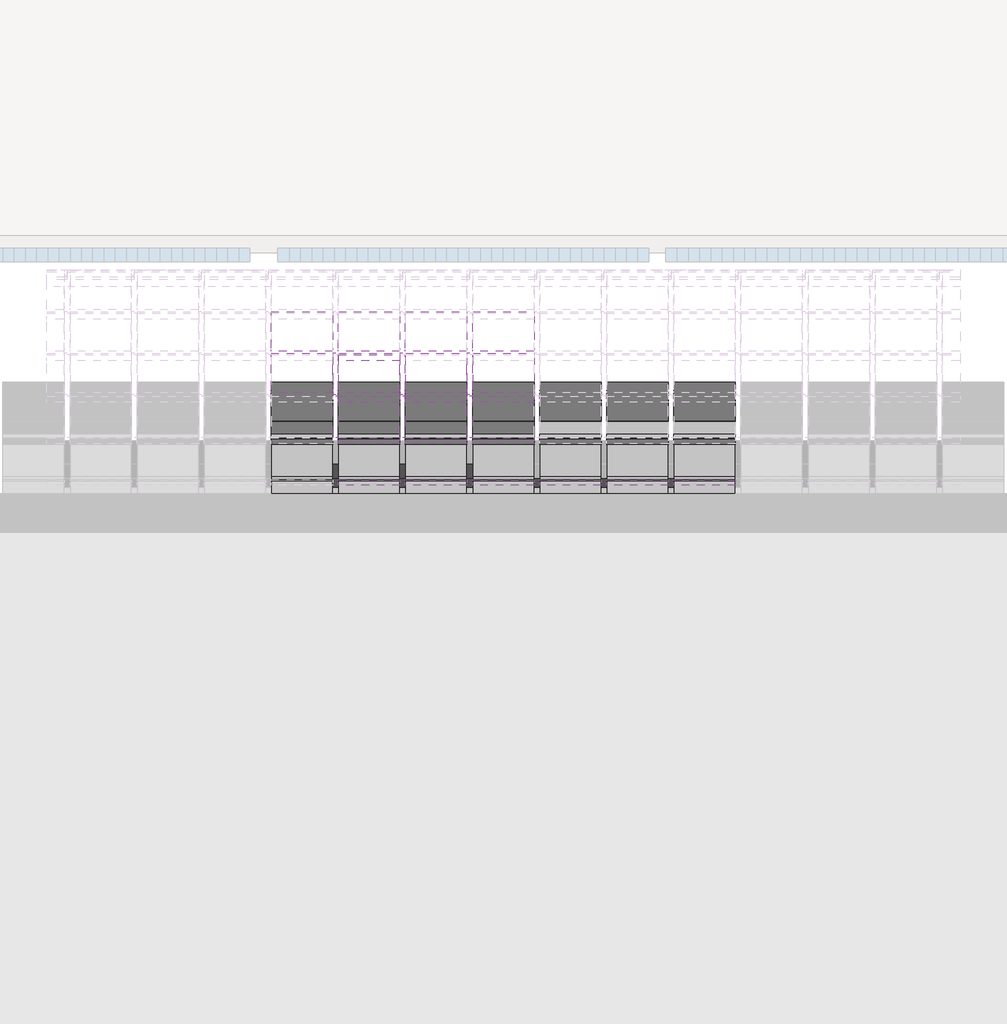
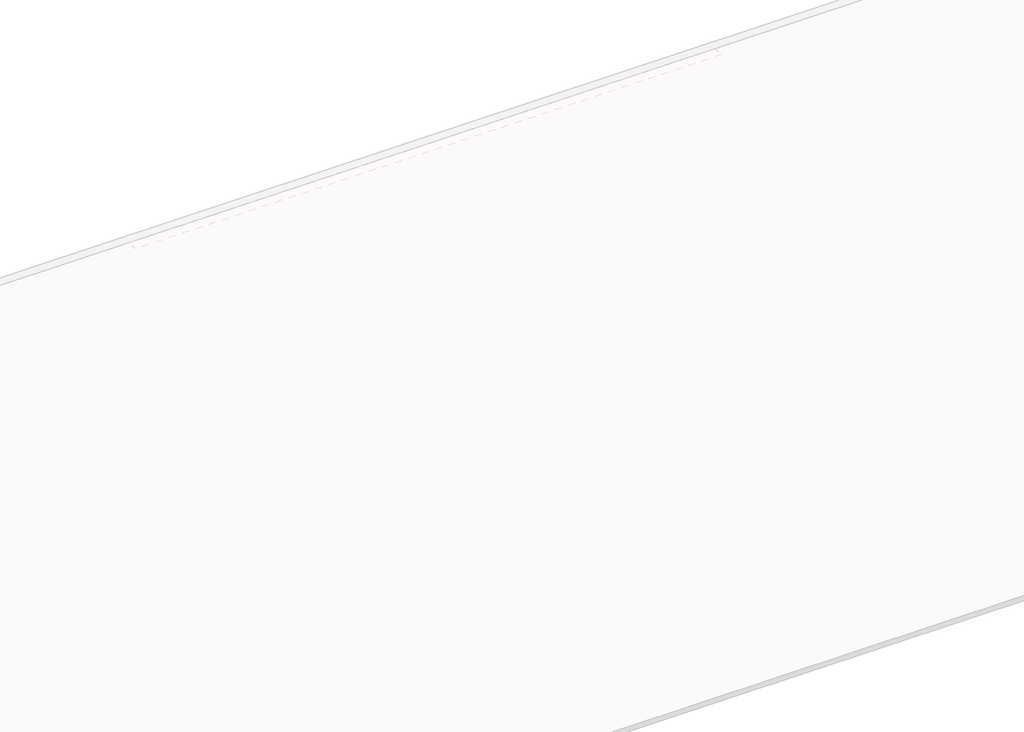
# One storey, part 38 of 57: 82 members, 42 plates.
"""IFC4 building model written with IfcOpenShell, lengths in millimetres."""

from ifc_helpers import new_model, si_unit, origin, place, context, project, spatial, transform, mapped, element, save
from components import rectangular_mullion_59984080, rectangular_mullion_2d2423ea, rectangular_mullion_caibro_e4384bba, rectangular_mullion_caibro_9bd7bc61, empty_system_panel_vazio_178faf58, empty_system_panel_vazio_2c78850d

model = new_model("IFC4")

# Units and contexts
model_context = context("Model", 3, world=origin())
ifc_project = project(units=[si_unit("LENGTHUNIT", "METRE", prefix="MILLI")], contexts=[model_context])

# Site, building, storey
site = spatial("IfcSite", under=ifc_project)
building = spatial("IfcBuilding", under=site)
storey = spatial("IfcBuildingStorey", under=building, Name="Nível 2", Elevation=4100.0)

# Members
placement = place(None, origin())
rectangular_mullion_shape = rectangular_mullion_59984080(model_context)
element("IfcMember", 1, ObjectType="Rectangular Mullion : Ripa", at=placement, inside=storey, context=model_context, shape_type="MappedRepresentation", body=[
    mapped(rectangular_mullion_shape, transform((25061.8161527, 12234.5331147, 4820.409113), x_axis=(0.0, 0.9578262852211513, 0.2873478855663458), y_axis=(0.0, 0.2873478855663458, -0.9578262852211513), z_axis=(-1.0, 0.0, 0.0))),
])
element("IfcMember", 2, ObjectType="Rectangular Mullion : Ripa", at=placement, inside=storey, context=model_context, shape_type="MappedRepresentation", body=[
    mapped(rectangular_mullion_shape, transform((25658.8709092, 12234.5331147, 4820.409113), x_axis=(0.0, 0.9578262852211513, 0.2873478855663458), y_axis=(0.0, 0.2873478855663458, -0.9578262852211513), z_axis=(-1.0, 0.0, 0.0))),
])
element("IfcMember", 3, ObjectType="Rectangular Mullion : Ripa", at=placement, inside=storey, context=model_context, shape_type="MappedRepresentation", body=[
    mapped(rectangular_mullion_shape, transform((26255.9256656, 12234.5331147, 4820.409113), x_axis=(0.0, 0.9578262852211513, 0.2873478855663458), y_axis=(0.0, 0.2873478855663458, -0.9578262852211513), z_axis=(-1.0, 0.0, 0.0))),
])
element("IfcMember", 4, ObjectType="Rectangular Mullion : Ripa", at=placement, inside=storey, context=model_context, shape_type="MappedRepresentation", body=[
    mapped(rectangular_mullion_shape, transform((26852.980422, 12234.5331147, 4820.409113), x_axis=(0.0, 0.9578262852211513, 0.2873478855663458), y_axis=(0.0, 0.2873478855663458, -0.9578262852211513), z_axis=(-1.0, 0.0, 0.0))),
])
element("IfcMember", 5, ObjectType="Rectangular Mullion : Ripa", at=placement, inside=storey, context=model_context, shape_type="MappedRepresentation", body=[
    mapped(rectangular_mullion_shape, transform((27450.0351784, 12234.5331147, 4820.409113), x_axis=(0.0, 0.9578262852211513, 0.2873478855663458), y_axis=(0.0, 0.2873478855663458, -0.9578262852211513), z_axis=(-1.0, 0.0, 0.0))),
])
element("IfcMember", 6, ObjectType="Rectangular Mullion : Ripa", at=placement, inside=storey, context=model_context, shape_type="MappedRepresentation", body=[
    mapped(rectangular_mullion_shape, transform((25061.8161527, 12604.7103734, 4931.4622906), x_axis=(0.0, 0.9578262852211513, 0.2873478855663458), y_axis=(0.0, 0.2873478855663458, -0.9578262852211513), z_axis=(-1.0, 0.0, 0.0))),
])
element("IfcMember", 7, ObjectType="Rectangular Mullion : Ripa", at=placement, inside=storey, context=model_context, shape_type="MappedRepresentation", body=[
    mapped(rectangular_mullion_shape, transform((25658.8709092, 12604.7103734, 4931.4622906), x_axis=(0.0, 0.9578262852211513, 0.2873478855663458), y_axis=(0.0, 0.2873478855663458, -0.9578262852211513), z_axis=(-1.0, 0.0, 0.0))),
])
element("IfcMember", 8, ObjectType="Rectangular Mullion : Ripa", at=placement, inside=storey, context=model_context, shape_type="MappedRepresentation", body=[
    mapped(rectangular_mullion_shape, transform((26255.9256656, 12604.7103734, 4931.4622906), x_axis=(0.0, 0.9578262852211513, 0.2873478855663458), y_axis=(0.0, 0.2873478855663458, -0.9578262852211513), z_axis=(-1.0, 0.0, 0.0))),
])
element("IfcMember", 9, ObjectType="Rectangular Mullion : Ripa", at=placement, inside=storey, context=model_context, shape_type="MappedRepresentation", body=[
    mapped(rectangular_mullion_shape, transform((26852.980422, 12604.7103734, 4931.4622906), x_axis=(0.0, 0.9578262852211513, 0.2873478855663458), y_axis=(0.0, 0.2873478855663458, -0.9578262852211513), z_axis=(-1.0, 0.0, 0.0))),
])
element("IfcMember", 10, ObjectType="Rectangular Mullion : Ripa", at=placement, inside=storey, context=model_context, shape_type="MappedRepresentation", body=[
    mapped(rectangular_mullion_shape, transform((27450.0351784, 12604.7103734, 4931.4622906), x_axis=(0.0, 0.9578262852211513, 0.2873478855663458), y_axis=(0.0, 0.2873478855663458, -0.9578262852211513), z_axis=(-1.0, 0.0, 0.0))),
])
element("IfcMember", 11, ObjectType="Rectangular Mullion : Ripa", at=placement, inside=storey, context=model_context, shape_type="MappedRepresentation", body=[
    mapped(rectangular_mullion_shape, transform((25061.8161527, 12974.8876321, 5042.5154682), x_axis=(0.0, 0.9578262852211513, 0.2873478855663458), y_axis=(0.0, 0.2873478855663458, -0.9578262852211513), z_axis=(-1.0, 0.0, 0.0))),
])
element("IfcMember", 12, ObjectType="Rectangular Mullion : Ripa", at=placement, inside=storey, context=model_context, shape_type="MappedRepresentation", body=[
    mapped(rectangular_mullion_shape, transform((25658.8709092, 12974.8876321, 5042.5154682), x_axis=(0.0, 0.9578262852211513, 0.2873478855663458), y_axis=(0.0, 0.2873478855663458, -0.9578262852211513), z_axis=(-1.0, 0.0, 0.0))),
])
element("IfcMember", 13, ObjectType="Rectangular Mullion : Ripa", at=placement, inside=storey, context=model_context, shape_type="MappedRepresentation", body=[
    mapped(rectangular_mullion_shape, transform((26255.9256656, 12974.8876321, 5042.5154682), x_axis=(0.0, 0.9578262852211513, 0.2873478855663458), y_axis=(0.0, 0.2873478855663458, -0.9578262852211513), z_axis=(-1.0, 0.0, 0.0))),
])
element("IfcMember", 14, ObjectType="Rectangular Mullion : Ripa", at=placement, inside=storey, context=model_context, shape_type="MappedRepresentation", body=[
    mapped(rectangular_mullion_shape, transform((26852.980422, 12974.8876321, 5042.5154682), x_axis=(0.0, 0.9578262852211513, 0.2873478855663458), y_axis=(0.0, 0.2873478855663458, -0.9578262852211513), z_axis=(-1.0, 0.0, 0.0))),
])
element("IfcMember", 15, ObjectType="Rectangular Mullion : Ripa", at=placement, inside=storey, context=model_context, shape_type="MappedRepresentation", body=[
    mapped(rectangular_mullion_shape, transform((27450.0351784, 12974.8876321, 5042.5154682), x_axis=(0.0, 0.9578262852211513, 0.2873478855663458), y_axis=(0.0, 0.2873478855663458, -0.9578262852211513), z_axis=(-1.0, 0.0, 0.0))),
])
element("IfcMember", 16, ObjectType="Rectangular Mullion : Ripa", at=placement, inside=storey, context=model_context, shape_type="MappedRepresentation", body=[
    mapped(rectangular_mullion_shape, transform((24464.7613963, 13345.0648907, 5153.5686458), x_axis=(0.0, 0.9578262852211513, 0.2873478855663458), y_axis=(0.0, 0.2873478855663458, -0.9578262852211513), z_axis=(-1.0, 0.0, 0.0))),
])
element("IfcMember", 17, ObjectType="Rectangular Mullion : Ripa", at=placement, inside=storey, context=model_context, shape_type="MappedRepresentation", body=[
    mapped(rectangular_mullion_shape, transform((25061.8161527, 13345.0648907, 5153.5686458), x_axis=(0.0, 0.9578262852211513, 0.2873478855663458), y_axis=(0.0, 0.2873478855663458, -0.9578262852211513), z_axis=(-1.0, 0.0, 0.0))),
])
element("IfcMember", 18, ObjectType="Rectangular Mullion : Ripa", at=placement, inside=storey, context=model_context, shape_type="MappedRepresentation", body=[
    mapped(rectangular_mullion_shape, transform((25658.8709092, 13345.0648907, 5153.5686458), x_axis=(0.0, 0.9578262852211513, 0.2873478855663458), y_axis=(0.0, 0.2873478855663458, -0.9578262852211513), z_axis=(-1.0, 0.0, 0.0))),
])
element("IfcMember", 19, ObjectType="Rectangular Mullion : Ripa", at=placement, inside=storey, context=model_context, shape_type="MappedRepresentation", body=[
    mapped(rectangular_mullion_shape, transform((26255.9256656, 13345.0648907, 5153.5686458), x_axis=(0.0, 0.9578262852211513, 0.2873478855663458), y_axis=(0.0, 0.2873478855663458, -0.9578262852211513), z_axis=(-1.0, 0.0, 0.0))),
])
element("IfcMember", 20, ObjectType="Rectangular Mullion : Ripa", at=placement, inside=storey, context=model_context, shape_type="MappedRepresentation", body=[
    mapped(rectangular_mullion_shape, transform((26852.980422, 13345.0648907, 5153.5686458), x_axis=(0.0, 0.9578262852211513, 0.2873478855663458), y_axis=(0.0, 0.2873478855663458, -0.9578262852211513), z_axis=(-1.0, 0.0, 0.0))),
])
element("IfcMember", 21, ObjectType="Rectangular Mullion : Ripa", at=placement, inside=storey, context=model_context, shape_type="MappedRepresentation", body=[
    mapped(rectangular_mullion_shape, transform((27450.0351784, 13345.0648907, 5153.5686458), x_axis=(0.0, 0.9578262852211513, 0.2873478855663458), y_axis=(0.0, 0.2873478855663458, -0.9578262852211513), z_axis=(-1.0, 0.0, 0.0))),
])
element("IfcMember", 22, ObjectType="Rectangular Mullion : Ripa", at=placement, inside=storey, context=model_context, shape_type="MappedRepresentation", body=[
    mapped(rectangular_mullion_shape, transform((24464.7613963, 13715.2421494, 5264.6218234), x_axis=(0.0, 0.9578262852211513, 0.2873478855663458), y_axis=(0.0, 0.2873478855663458, -0.9578262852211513), z_axis=(-1.0, 0.0, 0.0))),
])
element("IfcMember", 23, ObjectType="Rectangular Mullion : Ripa", at=placement, inside=storey, context=model_context, shape_type="MappedRepresentation", body=[
    mapped(rectangular_mullion_shape, transform((25061.8161527, 13715.2421494, 5264.6218234), x_axis=(0.0, 0.9578262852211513, 0.2873478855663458), y_axis=(0.0, 0.2873478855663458, -0.9578262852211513), z_axis=(-1.0, 0.0, 0.0))),
])
element("IfcMember", 24, ObjectType="Rectangular Mullion : Ripa", at=placement, inside=storey, context=model_context, shape_type="MappedRepresentation", body=[
    mapped(rectangular_mullion_shape, transform((25658.8709092, 13715.2421494, 5264.6218234), x_axis=(0.0, 0.9578262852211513, 0.2873478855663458), y_axis=(0.0, 0.2873478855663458, -0.9578262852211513), z_axis=(-1.0, 0.0, 0.0))),
])
element("IfcMember", 25, ObjectType="Rectangular Mullion : Ripa", at=placement, inside=storey, context=model_context, shape_type="MappedRepresentation", body=[
    mapped(rectangular_mullion_shape, transform((26255.9256656, 13715.2421494, 5264.6218234), x_axis=(0.0, 0.9578262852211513, 0.2873478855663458), y_axis=(0.0, 0.2873478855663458, -0.9578262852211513), z_axis=(-1.0, 0.0, 0.0))),
])
element("IfcMember", 26, ObjectType="Rectangular Mullion : Ripa", at=placement, inside=storey, context=model_context, shape_type="MappedRepresentation", body=[
    mapped(rectangular_mullion_shape, transform((26852.980422, 13715.2421494, 5264.6218234), x_axis=(0.0, 0.9578262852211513, 0.2873478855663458), y_axis=(0.0, 0.2873478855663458, -0.9578262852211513), z_axis=(-1.0, 0.0, 0.0))),
])
element("IfcMember", 27, ObjectType="Rectangular Mullion : Ripa", at=placement, inside=storey, context=model_context, shape_type="MappedRepresentation", body=[
    mapped(rectangular_mullion_shape, transform((27450.0351784, 13715.2421494, 5264.6218234), x_axis=(0.0, 0.9578262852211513, 0.2873478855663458), y_axis=(0.0, 0.2873478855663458, -0.9578262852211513), z_axis=(-1.0, 0.0, 0.0))),
])
element("IfcMember", 28, ObjectType="Rectangular Mullion : Ripa", at=placement, inside=storey, context=model_context, shape_type="MappedRepresentation", body=[
    mapped(rectangular_mullion_shape, transform((24464.7613963, 14085.4194081, 5375.675001), x_axis=(0.0, 0.9578262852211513, 0.2873478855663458), y_axis=(0.0, 0.2873478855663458, -0.9578262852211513), z_axis=(-1.0, 0.0, 0.0))),
])
element("IfcMember", 29, ObjectType="Rectangular Mullion : Ripa", at=placement, inside=storey, context=model_context, shape_type="MappedRepresentation", body=[
    mapped(rectangular_mullion_shape, transform((25061.8161527, 14085.4194081, 5375.675001), x_axis=(0.0, 0.9578262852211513, 0.2873478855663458), y_axis=(0.0, 0.2873478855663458, -0.9578262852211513), z_axis=(-1.0, 0.0, 0.0))),
])
element("IfcMember", 30, ObjectType="Rectangular Mullion : Ripa", at=placement, inside=storey, context=model_context, shape_type="MappedRepresentation", body=[
    mapped(rectangular_mullion_shape, transform((25658.8709092, 14085.4194081, 5375.675001), x_axis=(0.0, 0.9578262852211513, 0.2873478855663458), y_axis=(0.0, 0.2873478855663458, -0.9578262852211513), z_axis=(-1.0, 0.0, 0.0))),
])
element("IfcMember", 31, ObjectType="Rectangular Mullion : Ripa", at=placement, inside=storey, context=model_context, shape_type="MappedRepresentation", body=[
    mapped(rectangular_mullion_shape, transform((24464.7613963, 14455.5966667, 5486.7281786), x_axis=(0.0, 0.9578262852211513, 0.2873478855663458), y_axis=(0.0, 0.2873478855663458, -0.9578262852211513), z_axis=(-1.0, 0.0, 0.0))),
])
element("IfcMember", 32, ObjectType="Rectangular Mullion : Ripa", at=placement, inside=storey, context=model_context, shape_type="MappedRepresentation", body=[
    mapped(rectangular_mullion_shape, transform((25061.8161527, 14455.5966667, 5486.7281786), x_axis=(0.0, 0.9578262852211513, 0.2873478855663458), y_axis=(0.0, 0.2873478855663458, -0.9578262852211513), z_axis=(-1.0, 0.0, 0.0))),
])
element("IfcMember", 33, ObjectType="Rectangular Mullion : Ripa", at=placement, inside=storey, context=model_context, shape_type="MappedRepresentation", body=[
    mapped(rectangular_mullion_shape, transform((25658.8709092, 14455.5966667, 5486.7281786), x_axis=(0.0, 0.9578262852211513, 0.2873478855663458), y_axis=(0.0, 0.2873478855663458, -0.9578262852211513), z_axis=(-1.0, 0.0, 0.0))),
])
element("IfcMember", 34, ObjectType="Rectangular Mullion : Ripa", at=placement, inside=storey, context=model_context, shape_type="MappedRepresentation", body=[
    mapped(rectangular_mullion_shape, transform((24464.7613963, 14825.7739254, 5597.7813562), x_axis=(0.0, 0.9578262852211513, 0.2873478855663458), y_axis=(0.0, 0.2873478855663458, -0.9578262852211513), z_axis=(-1.0, 0.0, 0.0))),
])
rectangular_mullion_2_shape = rectangular_mullion_2d2423ea(model_context)
element("IfcMember", 35, ObjectType="Rectangular Mullion : Terça", at=placement, inside=storey, context=model_context, shape_type="MappedRepresentation", body=[
    mapped(rectangular_mullion_2_shape, transform((24464.7613963, 13411.2689826, 5110.7880343), x_axis=(0.0, 0.9578262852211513, 0.2873478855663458), y_axis=(0.0, 0.2873478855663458, -0.9578262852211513), z_axis=(-1.0, 0.0, 0.0))),
])
element("IfcMember", 36, ObjectType="Rectangular Mullion : Terça", at=placement, inside=storey, context=model_context, shape_type="MappedRepresentation", body=[
    mapped(rectangular_mullion_2_shape, transform((25061.8161527, 13411.2689826, 5110.7880343), x_axis=(0.0, 0.9578262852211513, 0.2873478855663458), y_axis=(0.0, 0.2873478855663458, -0.9578262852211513), z_axis=(-1.0, 0.0, 0.0))),
])
element("IfcMember", 37, ObjectType="Rectangular Mullion : Terça", at=placement, inside=storey, context=model_context, shape_type="MappedRepresentation", body=[
    mapped(rectangular_mullion_2_shape, transform((25658.8709092, 13411.2689826, 5110.7880343), x_axis=(0.0, 0.9578262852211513, 0.2873478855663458), y_axis=(0.0, 0.2873478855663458, -0.9578262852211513), z_axis=(-1.0, 0.0, 0.0))),
])
element("IfcMember", 38, ObjectType="Rectangular Mullion : Terça", at=placement, inside=storey, context=model_context, shape_type="MappedRepresentation", body=[
    mapped(rectangular_mullion_2_shape, transform((26255.9256656, 13411.2689826, 5110.7880343), x_axis=(0.0, 0.9578262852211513, 0.2873478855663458), y_axis=(0.0, 0.2873478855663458, -0.9578262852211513), z_axis=(-1.0, 0.0, 0.0))),
])
element("IfcMember", 39, ObjectType="Rectangular Mullion : Terça", at=placement, inside=storey, context=model_context, shape_type="MappedRepresentation", body=[
    mapped(rectangular_mullion_2_shape, transform((26852.980422, 13411.2689826, 5110.7880343), x_axis=(0.0, 0.9578262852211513, 0.2873478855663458), y_axis=(0.0, 0.2873478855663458, -0.9578262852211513), z_axis=(-1.0, 0.0, 0.0))),
])
element("IfcMember", 40, ObjectType="Rectangular Mullion : Terça", at=placement, inside=storey, context=model_context, shape_type="MappedRepresentation", body=[
    mapped(rectangular_mullion_2_shape, transform((27450.0351784, 13411.2689826, 5110.7880343), x_axis=(0.0, 0.9578262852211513, 0.2873478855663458), y_axis=(0.0, 0.2873478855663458, -0.9578262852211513), z_axis=(-1.0, 0.0, 0.0))),
])
rectangular_mullion_caibro_shape = rectangular_mullion_caibro_e4384bba(model_context)
element("IfcMember", 41, ObjectType="Rectangular Mullion : Caibro", at=placement, inside=storey, context=model_context, shape_type="MappedRepresentation", body=[
    mapped(rectangular_mullion_caibro_shape, transform((24439.7613963, 13345.0648907, 5153.5686458), x_axis=(1.0, 0.0, 0.0), y_axis=(0.0, 0.28734788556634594, -0.9578262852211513), z_axis=(0.0, 0.9578262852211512, 0.2873478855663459))),
])
element("IfcMember", 42, ObjectType="Rectangular Mullion : Caibro", at=placement, inside=storey, context=model_context, shape_type="MappedRepresentation", body=[
    mapped(rectangular_mullion_caibro_shape, transform((24439.7613963, 13715.2421494, 5264.6218234), x_axis=(1.0, 0.0, 0.0), y_axis=(0.0, 0.2873478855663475, -0.9578262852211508), z_axis=(0.0, 0.9578262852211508, 0.2873478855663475))),
])
element("IfcMember", 43, ObjectType="Rectangular Mullion : Caibro", at=placement, inside=storey, context=model_context, shape_type="MappedRepresentation", body=[
    mapped(rectangular_mullion_caibro_shape, transform((24439.7613963, 14085.4194081, 5375.675001), x_axis=(1.0, 0.0, 0.0), y_axis=(0.0, 0.2873478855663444, -0.9578262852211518), z_axis=(0.0, 0.9578262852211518, 0.2873478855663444))),
])
element("IfcMember", 44, ObjectType="Rectangular Mullion : Caibro", at=placement, inside=storey, context=model_context, shape_type="MappedRepresentation", body=[
    mapped(rectangular_mullion_caibro_shape, transform((24439.7613963, 14455.5966667, 5486.7281786), x_axis=(1.0, 0.0, 0.0), y_axis=(0.0, 0.28734788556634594, -0.9578262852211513), z_axis=(0.0, 0.9578262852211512, 0.2873478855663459))),
])
element("IfcMember", 45, ObjectType="Rectangular Mullion : Caibro", at=placement, inside=storey, context=model_context, shape_type="MappedRepresentation", body=[
    mapped(rectangular_mullion_caibro_shape, transform((24439.7613963, 14825.7739254, 5597.7813562), x_axis=(1.0, 0.0, 0.0), y_axis=(0.0, 0.28734788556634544, -0.9578262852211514), z_axis=(0.0, 0.9578262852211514, 0.28734788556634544))),
])
element("IfcMember", 46, ObjectType="Rectangular Mullion : Caibro", at=placement, inside=storey, context=model_context, shape_type="MappedRepresentation", body=[
    mapped(rectangular_mullion_caibro_shape, transform((25036.8161527, 12234.5331147, 4820.409113), x_axis=(1.0, 0.0, 0.0), y_axis=(0.0, 0.2873478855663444, -0.9578262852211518), z_axis=(0.0, 0.9578262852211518, 0.2873478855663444))),
])
element("IfcMember", 47, ObjectType="Rectangular Mullion : Caibro", at=placement, inside=storey, context=model_context, shape_type="MappedRepresentation", body=[
    mapped(rectangular_mullion_caibro_shape, transform((25036.8161527, 12604.7103734, 4931.4622906), x_axis=(1.0, 0.0, 0.0), y_axis=(0.0, 0.28734788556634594, -0.9578262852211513), z_axis=(0.0, 0.9578262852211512, 0.2873478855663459))),
])
element("IfcMember", 48, ObjectType="Rectangular Mullion : Caibro", at=placement, inside=storey, context=model_context, shape_type="MappedRepresentation", body=[
    mapped(rectangular_mullion_caibro_shape, transform((25036.8161527, 12974.8876321, 5042.5154682), x_axis=(1.0, 0.0, 0.0), y_axis=(0.0, 0.28734788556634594, -0.9578262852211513), z_axis=(0.0, 0.9578262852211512, 0.2873478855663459))),
])
element("IfcMember", 49, ObjectType="Rectangular Mullion : Caibro", at=placement, inside=storey, context=model_context, shape_type="MappedRepresentation", body=[
    mapped(rectangular_mullion_caibro_shape, transform((25036.8161527, 13345.0648907, 5153.5686458), x_axis=(1.0, 0.0, 0.0), y_axis=(0.0, 0.28734788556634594, -0.9578262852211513), z_axis=(0.0, 0.9578262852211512, 0.2873478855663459))),
])
element("IfcMember", 50, ObjectType="Rectangular Mullion : Caibro", at=placement, inside=storey, context=model_context, shape_type="MappedRepresentation", body=[
    mapped(rectangular_mullion_caibro_shape, transform((25036.8161527, 13715.2421494, 5264.6218234), x_axis=(1.0, 0.0, 0.0), y_axis=(0.0, 0.2873478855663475, -0.9578262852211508), z_axis=(0.0, 0.9578262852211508, 0.2873478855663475))),
])
element("IfcMember", 51, ObjectType="Rectangular Mullion : Caibro", at=placement, inside=storey, context=model_context, shape_type="MappedRepresentation", body=[
    mapped(rectangular_mullion_caibro_shape, transform((25036.8161527, 14085.4194081, 5375.675001), x_axis=(1.0, 0.0, 0.0), y_axis=(0.0, 0.2873478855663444, -0.9578262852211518), z_axis=(0.0, 0.9578262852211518, 0.2873478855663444))),
])
element("IfcMember", 52, ObjectType="Rectangular Mullion : Caibro", at=placement, inside=storey, context=model_context, shape_type="MappedRepresentation", body=[
    mapped(rectangular_mullion_caibro_shape, transform((25036.8161527, 14455.5966667, 5486.7281786), x_axis=(1.0, 0.0, 0.0), y_axis=(0.0, 0.28734788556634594, -0.9578262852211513), z_axis=(0.0, 0.9578262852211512, 0.2873478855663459))),
])
element("IfcMember", 53, ObjectType="Rectangular Mullion : Caibro", at=placement, inside=storey, context=model_context, shape_type="MappedRepresentation", body=[
    mapped(rectangular_mullion_caibro_shape, transform((25036.8161527, 14825.7739254, 5597.7813562), x_axis=(1.0, 0.0, 0.0), y_axis=(0.0, 0.28734788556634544, -0.9578262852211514), z_axis=(0.0, 0.9578262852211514, 0.28734788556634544))),
])
element("IfcMember", 54, ObjectType="Rectangular Mullion : Caibro", at=placement, inside=storey, context=model_context, shape_type="MappedRepresentation", body=[
    mapped(rectangular_mullion_caibro_shape, transform((25633.8709092, 12234.5331147, 4820.409113), x_axis=(1.0, 0.0, 0.0), y_axis=(0.0, 0.2873478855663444, -0.9578262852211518), z_axis=(0.0, 0.9578262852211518, 0.2873478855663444))),
])
element("IfcMember", 55, ObjectType="Rectangular Mullion : Caibro", at=placement, inside=storey, context=model_context, shape_type="MappedRepresentation", body=[
    mapped(rectangular_mullion_caibro_shape, transform((25633.8709092, 12604.7103734, 4931.4622906), x_axis=(1.0, 0.0, 0.0), y_axis=(0.0, 0.2873478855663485, -0.9578262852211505), z_axis=(0.0, 0.9578262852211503, 0.28734788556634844))),
])
element("IfcMember", 56, ObjectType="Rectangular Mullion : Caibro", at=placement, inside=storey, context=model_context, shape_type="MappedRepresentation", body=[
    mapped(rectangular_mullion_caibro_shape, transform((25633.8709092, 12974.8876321, 5042.5154682), x_axis=(1.0, 0.0, 0.0), y_axis=(0.0, 0.2873478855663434, -0.957826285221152), z_axis=(0.0, 0.957826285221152, 0.2873478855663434))),
])
element("IfcMember", 57, ObjectType="Rectangular Mullion : Caibro", at=placement, inside=storey, context=model_context, shape_type="MappedRepresentation", body=[
    mapped(rectangular_mullion_caibro_shape, transform((25633.8709092, 13345.0648907, 5153.5686458), x_axis=(1.0, 0.0, 0.0), y_axis=(0.0, 0.28734788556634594, -0.9578262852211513), z_axis=(0.0, 0.9578262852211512, 0.2873478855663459))),
])
element("IfcMember", 58, ObjectType="Rectangular Mullion : Caibro", at=placement, inside=storey, context=model_context, shape_type="MappedRepresentation", body=[
    mapped(rectangular_mullion_caibro_shape, transform((25633.8709092, 13715.2421494, 5264.6218234), x_axis=(1.0, 0.0, 0.0), y_axis=(0.0, 0.28734788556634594, -0.9578262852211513), z_axis=(0.0, 0.9578262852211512, 0.2873478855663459))),
])
element("IfcMember", 59, ObjectType="Rectangular Mullion : Caibro", at=placement, inside=storey, context=model_context, shape_type="MappedRepresentation", body=[
    mapped(rectangular_mullion_caibro_shape, transform((25633.8709092, 14085.4194081, 5375.675001), x_axis=(1.0, 0.0, 0.0), y_axis=(0.0, 0.28734788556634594, -0.9578262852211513), z_axis=(0.0, 0.9578262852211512, 0.2873478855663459))),
])
element("IfcMember", 60, ObjectType="Rectangular Mullion : Caibro", at=placement, inside=storey, context=model_context, shape_type="MappedRepresentation", body=[
    mapped(rectangular_mullion_caibro_shape, transform((25633.8709092, 14455.5966667, 5486.7281786), x_axis=(1.0, 0.0, 0.0), y_axis=(0.0, 0.2873478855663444, -0.9578262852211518), z_axis=(0.0, 0.9578262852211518, 0.2873478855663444))),
])
element("IfcMember", 61, ObjectType="Rectangular Mullion : Caibro", at=placement, inside=storey, context=model_context, shape_type="MappedRepresentation", body=[
    mapped(rectangular_mullion_caibro_shape, transform((25633.8709092, 14825.7739254, 5597.7813562), x_axis=(1.0, 0.0, 0.0), y_axis=(0.0, 0.287347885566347, -0.9578262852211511), z_axis=(0.0, 0.9578262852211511, 0.287347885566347))),
])
element("IfcMember", 62, ObjectType="Rectangular Mullion : Caibro", at=placement, inside=storey, context=model_context, shape_type="MappedRepresentation", body=[
    mapped(rectangular_mullion_caibro_shape, transform((26230.9256656, 12234.5331147, 4820.409113), x_axis=(1.0, 0.0, 0.0), y_axis=(0.0, 0.2873478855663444, -0.9578262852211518), z_axis=(0.0, 0.9578262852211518, 0.2873478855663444))),
])
element("IfcMember", 63, ObjectType="Rectangular Mullion : Caibro", at=placement, inside=storey, context=model_context, shape_type="MappedRepresentation", body=[
    mapped(rectangular_mullion_caibro_shape, transform((26230.9256656, 12604.7103734, 4931.4622906), x_axis=(1.0, 0.0, 0.0), y_axis=(0.0, 0.2873478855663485, -0.9578262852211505), z_axis=(0.0, 0.9578262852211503, 0.28734788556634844))),
])
element("IfcMember", 64, ObjectType="Rectangular Mullion : Caibro", at=placement, inside=storey, context=model_context, shape_type="MappedRepresentation", body=[
    mapped(rectangular_mullion_caibro_shape, transform((26230.9256656, 12974.8876321, 5042.5154682), x_axis=(1.0, 0.0, 0.0), y_axis=(0.0, 0.2873478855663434, -0.957826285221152), z_axis=(0.0, 0.957826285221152, 0.2873478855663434))),
])
element("IfcMember", 65, ObjectType="Rectangular Mullion : Caibro", at=placement, inside=storey, context=model_context, shape_type="MappedRepresentation", body=[
    mapped(rectangular_mullion_caibro_shape, transform((26230.9256656, 13345.0648907, 5153.5686458), x_axis=(1.0, 0.0, 0.0), y_axis=(0.0, 0.28734788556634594, -0.9578262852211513), z_axis=(0.0, 0.9578262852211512, 0.2873478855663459))),
])
element("IfcMember", 66, ObjectType="Rectangular Mullion : Caibro", at=placement, inside=storey, context=model_context, shape_type="MappedRepresentation", body=[
    mapped(rectangular_mullion_caibro_shape, transform((26230.9256656, 13715.2421494, 5264.6218234), x_axis=(1.0, 0.0, 0.0), y_axis=(0.0, 0.28734788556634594, -0.9578262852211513), z_axis=(0.0, 0.9578262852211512, 0.2873478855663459))),
])
element("IfcMember", 67, ObjectType="Rectangular Mullion : Caibro", at=placement, inside=storey, context=model_context, shape_type="MappedRepresentation", body=[
    mapped(rectangular_mullion_caibro_shape, transform((26827.980422, 12234.5331147, 4820.409113), x_axis=(1.0, 0.0, 0.0), y_axis=(0.0, 0.2873478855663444, -0.9578262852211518), z_axis=(0.0, 0.9578262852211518, 0.2873478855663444))),
])
element("IfcMember", 68, ObjectType="Rectangular Mullion : Caibro", at=placement, inside=storey, context=model_context, shape_type="MappedRepresentation", body=[
    mapped(rectangular_mullion_caibro_shape, transform((26827.980422, 12604.7103734, 4931.4622906), x_axis=(1.0, 0.0, 0.0), y_axis=(0.0, 0.2873478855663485, -0.9578262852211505), z_axis=(0.0, 0.9578262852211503, 0.28734788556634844))),
])
element("IfcMember", 69, ObjectType="Rectangular Mullion : Caibro", at=placement, inside=storey, context=model_context, shape_type="MappedRepresentation", body=[
    mapped(rectangular_mullion_caibro_shape, transform((26827.980422, 12974.8876321, 5042.5154682), x_axis=(1.0, 0.0, 0.0), y_axis=(0.0, 0.2873478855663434, -0.957826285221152), z_axis=(0.0, 0.957826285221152, 0.2873478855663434))),
])
element("IfcMember", 70, ObjectType="Rectangular Mullion : Caibro", at=placement, inside=storey, context=model_context, shape_type="MappedRepresentation", body=[
    mapped(rectangular_mullion_caibro_shape, transform((26827.980422, 13345.0648907, 5153.5686458), x_axis=(1.0, 0.0, 0.0), y_axis=(0.0, 0.28734788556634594, -0.9578262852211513), z_axis=(0.0, 0.9578262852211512, 0.2873478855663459))),
])
element("IfcMember", 71, ObjectType="Rectangular Mullion : Caibro", at=placement, inside=storey, context=model_context, shape_type="MappedRepresentation", body=[
    mapped(rectangular_mullion_caibro_shape, transform((26827.980422, 13715.2421494, 5264.6218234), x_axis=(1.0, 0.0, 0.0), y_axis=(0.0, 0.28734788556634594, -0.9578262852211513), z_axis=(0.0, 0.9578262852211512, 0.2873478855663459))),
])
element("IfcMember", 72, ObjectType="Rectangular Mullion : Caibro", at=placement, inside=storey, context=model_context, shape_type="MappedRepresentation", body=[
    mapped(rectangular_mullion_caibro_shape, transform((27425.0351784, 12234.5331147, 4820.409113), x_axis=(1.0, 0.0, 0.0), y_axis=(0.0, 0.2873478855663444, -0.9578262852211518), z_axis=(0.0, 0.9578262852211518, 0.2873478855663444))),
])
element("IfcMember", 73, ObjectType="Rectangular Mullion : Caibro", at=placement, inside=storey, context=model_context, shape_type="MappedRepresentation", body=[
    mapped(rectangular_mullion_caibro_shape, transform((27425.0351784, 12604.7103734, 4931.4622906), x_axis=(1.0, 0.0, 0.0), y_axis=(0.0, 0.28734788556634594, -0.9578262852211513), z_axis=(0.0, 0.9578262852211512, 0.2873478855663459))),
])
element("IfcMember", 74, ObjectType="Rectangular Mullion : Caibro", at=placement, inside=storey, context=model_context, shape_type="MappedRepresentation", body=[
    mapped(rectangular_mullion_caibro_shape, transform((27425.0351784, 12974.8876321, 5042.5154682), x_axis=(1.0, 0.0, 0.0), y_axis=(0.0, 0.28734788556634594, -0.9578262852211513), z_axis=(0.0, 0.9578262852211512, 0.2873478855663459))),
])
element("IfcMember", 75, ObjectType="Rectangular Mullion : Caibro", at=placement, inside=storey, context=model_context, shape_type="MappedRepresentation", body=[
    mapped(rectangular_mullion_caibro_shape, transform((27425.0351784, 13345.0648907, 5153.5686458), x_axis=(1.0, 0.0, 0.0), y_axis=(0.0, 0.28734788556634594, -0.9578262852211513), z_axis=(0.0, 0.9578262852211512, 0.2873478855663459))),
])
element("IfcMember", 76, ObjectType="Rectangular Mullion : Caibro", at=placement, inside=storey, context=model_context, shape_type="MappedRepresentation", body=[
    mapped(rectangular_mullion_caibro_shape, transform((27425.0351784, 13715.2421494, 5264.6218234), x_axis=(1.0, 0.0, 0.0), y_axis=(0.0, 0.2873478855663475, -0.9578262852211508), z_axis=(0.0, 0.9578262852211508, 0.2873478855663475))),
])
rectangular_mullion_caibro_2_shape = rectangular_mullion_caibro_9bd7bc61(model_context)
element("IfcMember", 77, ObjectType="Rectangular Mullion : Caibro", at=placement, inside=storey, context=model_context, shape_type="MappedRepresentation", body=[
    mapped(rectangular_mullion_caibro_2_shape, transform((24439.7613963, 13411.2689826, 5110.7880343), x_axis=(1.0, 0.0, 0.0), y_axis=(0.0, 0.2873478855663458, -0.9578262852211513), z_axis=(0.0, 0.9578262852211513, 0.2873478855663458))),
])
element("IfcMember", 78, ObjectType="Rectangular Mullion : Caibro", at=placement, inside=storey, context=model_context, shape_type="MappedRepresentation", body=[
    mapped(rectangular_mullion_caibro_2_shape, transform((25036.8161527, 13411.2689826, 5110.7880343), x_axis=(1.0, 0.0, 0.0), y_axis=(0.0, 0.2873478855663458, -0.9578262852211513), z_axis=(0.0, 0.9578262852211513, 0.2873478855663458))),
])
element("IfcMember", 79, ObjectType="Rectangular Mullion : Caibro", at=placement, inside=storey, context=model_context, shape_type="MappedRepresentation", body=[
    mapped(rectangular_mullion_caibro_2_shape, transform((25633.8709092, 13411.2689826, 5110.7880343), x_axis=(1.0, 0.0, 0.0), y_axis=(0.0, 0.2873478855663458, -0.9578262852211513), z_axis=(0.0, 0.9578262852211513, 0.2873478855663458))),
])
element("IfcMember", 80, ObjectType="Rectangular Mullion : Caibro", at=placement, inside=storey, context=model_context, shape_type="MappedRepresentation", body=[
    mapped(rectangular_mullion_caibro_2_shape, transform((26230.9256656, 13411.2689826, 5110.7880343), x_axis=(1.0, 0.0, 0.0), y_axis=(0.0, 0.2873478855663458, -0.9578262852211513), z_axis=(0.0, 0.9578262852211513, 0.2873478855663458))),
])
element("IfcMember", 81, ObjectType="Rectangular Mullion : Caibro", at=placement, inside=storey, context=model_context, shape_type="MappedRepresentation", body=[
    mapped(rectangular_mullion_caibro_2_shape, transform((26827.980422, 13411.2689826, 5110.7880343), x_axis=(1.0, 0.0, 0.0), y_axis=(0.0, 0.2873478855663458, -0.9578262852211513), z_axis=(0.0, 0.9578262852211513, 0.2873478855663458))),
])
element("IfcMember", 82, ObjectType="Rectangular Mullion : Caibro", at=placement, inside=storey, context=model_context, shape_type="MappedRepresentation", body=[
    mapped(rectangular_mullion_caibro_2_shape, transform((27425.0351784, 13411.2689826, 5110.7880343), x_axis=(1.0, 0.0, 0.0), y_axis=(0.0, 0.2873478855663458, -0.9578262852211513), z_axis=(0.0, 0.9578262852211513, 0.2873478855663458))),
])

# Plates
empty_system_panel_vazio_shape = empty_system_panel_vazio_178faf58(model_context)
element("IfcPlate", 83, ObjectType="Empty System Panel : Vazio", at=placement, inside=storey, context=model_context, shape_type="MappedRepresentation", body=[
    mapped(empty_system_panel_vazio_shape, transform((26529.4530438, 12234.5331147, 4820.409113), x_axis=(1.0, 0.0, 0.0), y_axis=(0.0, 0.2873478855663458, -0.9578262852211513), z_axis=(0.0, 0.9578262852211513, 0.2873478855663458))),
])
element("IfcPlate", 84, ObjectType="Empty System Panel : Vazio", at=placement, inside=storey, context=model_context, shape_type="MappedRepresentation", body=[
    mapped(empty_system_panel_vazio_shape, transform((27126.5078002, 12234.5331147, 4820.409113), x_axis=(1.0, 0.0, 0.0), y_axis=(0.0, 0.2873478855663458, -0.9578262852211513), z_axis=(0.0, 0.9578262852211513, 0.2873478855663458))),
])
element("IfcPlate", 85, ObjectType="Empty System Panel : Vazio", at=placement, inside=storey, context=model_context, shape_type="MappedRepresentation", body=[
    mapped(empty_system_panel_vazio_shape, transform((27723.5625566, 12234.5331147, 4820.409113), x_axis=(1.0, 0.0, 0.0), y_axis=(0.0, 0.2873478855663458, -0.9578262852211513), z_axis=(0.0, 0.9578262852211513, 0.2873478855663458))),
])
element("IfcPlate", 86, ObjectType="Empty System Panel : Vazio", at=placement, inside=storey, context=model_context, shape_type="MappedRepresentation", body=[
    mapped(empty_system_panel_vazio_shape, transform((26529.4530438, 12604.7103734, 4931.4622906), x_axis=(1.0, 0.0, 0.0), y_axis=(0.0, 0.2873478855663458, -0.9578262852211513), z_axis=(0.0, 0.9578262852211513, 0.2873478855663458))),
])
element("IfcPlate", 87, ObjectType="Empty System Panel : Vazio", at=placement, inside=storey, context=model_context, shape_type="MappedRepresentation", body=[
    mapped(empty_system_panel_vazio_shape, transform((27126.5078002, 12604.7103734, 4931.4622906), x_axis=(1.0, 0.0, 0.0), y_axis=(0.0, 0.2873478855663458, -0.9578262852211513), z_axis=(0.0, 0.9578262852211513, 0.2873478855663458))),
])
element("IfcPlate", 88, ObjectType="Empty System Panel : Vazio", at=placement, inside=storey, context=model_context, shape_type="MappedRepresentation", body=[
    mapped(empty_system_panel_vazio_shape, transform((27723.5625566, 12604.7103734, 4931.4622906), x_axis=(1.0, 0.0, 0.0), y_axis=(0.0, 0.2873478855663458, -0.9578262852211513), z_axis=(0.0, 0.9578262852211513, 0.2873478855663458))),
])
element("IfcPlate", 89, ObjectType="Empty System Panel : Vazio", at=placement, inside=storey, context=model_context, shape_type="MappedRepresentation", body=[
    mapped(empty_system_panel_vazio_shape, transform((26529.4530438, 12974.8876321, 5042.5154682), x_axis=(1.0, 0.0, 0.0), y_axis=(0.0, 0.2873478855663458, -0.9578262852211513), z_axis=(0.0, 0.9578262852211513, 0.2873478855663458))),
])
element("IfcPlate", 90, ObjectType="Empty System Panel : Vazio", at=placement, inside=storey, context=model_context, shape_type="MappedRepresentation", body=[
    mapped(empty_system_panel_vazio_shape, transform((27126.5078002, 12974.8876321, 5042.5154682), x_axis=(1.0, 0.0, 0.0), y_axis=(0.0, 0.2873478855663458, -0.9578262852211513), z_axis=(0.0, 0.9578262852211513, 0.2873478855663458))),
])
element("IfcPlate", 91, ObjectType="Empty System Panel : Vazio", at=placement, inside=storey, context=model_context, shape_type="MappedRepresentation", body=[
    mapped(empty_system_panel_vazio_shape, transform((27723.5625566, 12974.8876321, 5042.5154682), x_axis=(1.0, 0.0, 0.0), y_axis=(0.0, 0.2873478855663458, -0.9578262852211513), z_axis=(0.0, 0.9578262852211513, 0.2873478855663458))),
])
element("IfcPlate", 92, ObjectType="Empty System Panel : Vazio", at=placement, inside=storey, context=model_context, shape_type="MappedRepresentation", body=[
    mapped(empty_system_panel_vazio_shape, transform((24141.2340181, 13345.0648907, 5153.5686458), x_axis=(1.0, 0.0, 0.0), y_axis=(0.0, 0.2873478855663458, -0.9578262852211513), z_axis=(0.0, 0.9578262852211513, 0.2873478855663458))),
])
element("IfcPlate", 93, ObjectType="Empty System Panel : Vazio", at=placement, inside=storey, context=model_context, shape_type="MappedRepresentation", body=[
    mapped(empty_system_panel_vazio_shape, transform((24738.2887745, 13345.0648907, 5153.5686458), x_axis=(1.0, 0.0, 0.0), y_axis=(0.0, 0.2873478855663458, -0.9578262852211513), z_axis=(0.0, 0.9578262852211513, 0.2873478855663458))),
])
element("IfcPlate", 94, ObjectType="Empty System Panel : Vazio", at=placement, inside=storey, context=model_context, shape_type="MappedRepresentation", body=[
    mapped(empty_system_panel_vazio_shape, transform((25335.3435309, 13345.0648907, 5153.5686458), x_axis=(1.0, 0.0, 0.0), y_axis=(0.0, 0.2873478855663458, -0.9578262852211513), z_axis=(0.0, 0.9578262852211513, 0.2873478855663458))),
])
element("IfcPlate", 95, ObjectType="Empty System Panel : Vazio", at=placement, inside=storey, context=model_context, shape_type="MappedRepresentation", body=[
    mapped(empty_system_panel_vazio_shape, transform((25932.3982874, 13345.0648907, 5153.5686458), x_axis=(1.0, 0.0, 0.0), y_axis=(0.0, 0.2873478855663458, -0.9578262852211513), z_axis=(0.0, 0.9578262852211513, 0.2873478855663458))),
])
element("IfcPlate", 96, ObjectType="Empty System Panel : Vazio", at=placement, inside=storey, context=model_context, shape_type="MappedRepresentation", body=[
    mapped(empty_system_panel_vazio_shape, transform((26529.4530438, 13345.0648907, 5153.5686458), x_axis=(1.0, 0.0, 0.0), y_axis=(0.0, 0.2873478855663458, -0.9578262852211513), z_axis=(0.0, 0.9578262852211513, 0.2873478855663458))),
])
element("IfcPlate", 97, ObjectType="Empty System Panel : Vazio", at=placement, inside=storey, context=model_context, shape_type="MappedRepresentation", body=[
    mapped(empty_system_panel_vazio_shape, transform((27126.5078002, 13345.0648907, 5153.5686458), x_axis=(1.0, 0.0, 0.0), y_axis=(0.0, 0.2873478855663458, -0.9578262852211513), z_axis=(0.0, 0.9578262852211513, 0.2873478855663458))),
])
element("IfcPlate", 98, ObjectType="Empty System Panel : Vazio", at=placement, inside=storey, context=model_context, shape_type="MappedRepresentation", body=[
    mapped(empty_system_panel_vazio_shape, transform((27723.5625566, 13345.0648907, 5153.5686458), x_axis=(1.0, 0.0, 0.0), y_axis=(0.0, 0.2873478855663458, -0.9578262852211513), z_axis=(0.0, 0.9578262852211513, 0.2873478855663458))),
])
element("IfcPlate", 99, ObjectType="Empty System Panel : Vazio", at=placement, inside=storey, context=model_context, shape_type="MappedRepresentation", body=[
    mapped(empty_system_panel_vazio_shape, transform((24141.2340181, 13715.2421494, 5264.6218234), x_axis=(1.0, 0.0, 0.0), y_axis=(0.0, 0.2873478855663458, -0.9578262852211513), z_axis=(0.0, 0.9578262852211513, 0.2873478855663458))),
])
element("IfcPlate", 100, ObjectType="Empty System Panel : Vazio", at=placement, inside=storey, context=model_context, shape_type="MappedRepresentation", body=[
    mapped(empty_system_panel_vazio_shape, transform((24738.2887745, 13715.2421494, 5264.6218234), x_axis=(1.0, 0.0, 0.0), y_axis=(0.0, 0.2873478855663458, -0.9578262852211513), z_axis=(0.0, 0.9578262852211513, 0.2873478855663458))),
])
element("IfcPlate", 101, ObjectType="Empty System Panel : Vazio", at=placement, inside=storey, context=model_context, shape_type="MappedRepresentation", body=[
    mapped(empty_system_panel_vazio_shape, transform((25335.3435309, 13715.2421494, 5264.6218234), x_axis=(1.0, 0.0, 0.0), y_axis=(0.0, 0.2873478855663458, -0.9578262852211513), z_axis=(0.0, 0.9578262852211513, 0.2873478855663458))),
])
element("IfcPlate", 102, ObjectType="Empty System Panel : Vazio", at=placement, inside=storey, context=model_context, shape_type="MappedRepresentation", body=[
    mapped(empty_system_panel_vazio_shape, transform((25932.3982874, 13715.2421494, 5264.6218234), x_axis=(1.0, 0.0, 0.0), y_axis=(0.0, 0.2873478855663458, -0.9578262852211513), z_axis=(0.0, 0.9578262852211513, 0.2873478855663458))),
])
element("IfcPlate", 103, ObjectType="Empty System Panel : Vazio", at=placement, inside=storey, context=model_context, shape_type="MappedRepresentation", body=[
    mapped(empty_system_panel_vazio_shape, transform((26529.4530438, 13715.2421494, 5264.6218234), x_axis=(1.0, 0.0, 0.0), y_axis=(0.0, 0.2873478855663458, -0.9578262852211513), z_axis=(0.0, 0.9578262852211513, 0.2873478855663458))),
])
element("IfcPlate", 104, ObjectType="Empty System Panel : Vazio", at=placement, inside=storey, context=model_context, shape_type="MappedRepresentation", body=[
    mapped(empty_system_panel_vazio_shape, transform((27126.5078002, 13715.2421494, 5264.6218234), x_axis=(1.0, 0.0, 0.0), y_axis=(0.0, 0.2873478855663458, -0.9578262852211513), z_axis=(0.0, 0.9578262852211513, 0.2873478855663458))),
])
element("IfcPlate", 105, ObjectType="Empty System Panel : Vazio", at=placement, inside=storey, context=model_context, shape_type="MappedRepresentation", body=[
    mapped(empty_system_panel_vazio_shape, transform((27723.5625566, 13715.2421494, 5264.6218234), x_axis=(1.0, 0.0, 0.0), y_axis=(0.0, 0.2873478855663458, -0.9578262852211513), z_axis=(0.0, 0.9578262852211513, 0.2873478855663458))),
])
element("IfcPlate", 106, ObjectType="Empty System Panel : Vazio", at=placement, inside=storey, context=model_context, shape_type="MappedRepresentation", body=[
    mapped(empty_system_panel_vazio_shape, transform((24141.2340181, 14085.4194081, 5375.675001), x_axis=(1.0, 0.0, 0.0), y_axis=(0.0, 0.2873478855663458, -0.9578262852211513), z_axis=(0.0, 0.9578262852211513, 0.2873478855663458))),
])
element("IfcPlate", 107, ObjectType="Empty System Panel : Vazio", at=placement, inside=storey, context=model_context, shape_type="MappedRepresentation", body=[
    mapped(empty_system_panel_vazio_shape, transform((24738.2887745, 14085.4194081, 5375.675001), x_axis=(1.0, 0.0, 0.0), y_axis=(0.0, 0.2873478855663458, -0.9578262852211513), z_axis=(0.0, 0.9578262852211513, 0.2873478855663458))),
])
element("IfcPlate", 108, ObjectType="Empty System Panel : Vazio", at=placement, inside=storey, context=model_context, shape_type="MappedRepresentation", body=[
    mapped(empty_system_panel_vazio_shape, transform((25335.3435309, 14085.4194081, 5375.675001), x_axis=(1.0, 0.0, 0.0), y_axis=(0.0, 0.2873478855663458, -0.9578262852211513), z_axis=(0.0, 0.9578262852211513, 0.2873478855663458))),
])
element("IfcPlate", 109, ObjectType="Empty System Panel : Vazio", at=placement, inside=storey, context=model_context, shape_type="MappedRepresentation", body=[
    mapped(empty_system_panel_vazio_shape, transform((25932.3982874, 14085.4194081, 5375.675001), x_axis=(1.0, 0.0, 0.0), y_axis=(0.0, 0.2873478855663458, -0.9578262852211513), z_axis=(0.0, 0.9578262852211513, 0.2873478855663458))),
])
element("IfcPlate", 110, ObjectType="Empty System Panel : Vazio", at=placement, inside=storey, context=model_context, shape_type="MappedRepresentation", body=[
    mapped(empty_system_panel_vazio_shape, transform((24141.2340181, 14455.5966667, 5486.7281786), x_axis=(1.0, 0.0, 0.0), y_axis=(0.0, 0.2873478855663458, -0.9578262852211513), z_axis=(0.0, 0.9578262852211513, 0.2873478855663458))),
])
element("IfcPlate", 111, ObjectType="Empty System Panel : Vazio", at=placement, inside=storey, context=model_context, shape_type="MappedRepresentation", body=[
    mapped(empty_system_panel_vazio_shape, transform((24738.2887745, 14455.5966667, 5486.7281786), x_axis=(1.0, 0.0, 0.0), y_axis=(0.0, 0.2873478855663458, -0.9578262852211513), z_axis=(0.0, 0.9578262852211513, 0.2873478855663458))),
])
element("IfcPlate", 112, ObjectType="Empty System Panel : Vazio", at=placement, inside=storey, context=model_context, shape_type="MappedRepresentation", body=[
    mapped(empty_system_panel_vazio_shape, transform((25335.3435309, 14455.5966667, 5486.7281786), x_axis=(1.0, 0.0, 0.0), y_axis=(0.0, 0.2873478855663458, -0.9578262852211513), z_axis=(0.0, 0.9578262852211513, 0.2873478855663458))),
])
element("IfcPlate", 113, ObjectType="Empty System Panel : Vazio", at=placement, inside=storey, context=model_context, shape_type="MappedRepresentation", body=[
    mapped(empty_system_panel_vazio_shape, transform((25932.3982874, 14455.5966667, 5486.7281786), x_axis=(1.0, 0.0, 0.0), y_axis=(0.0, 0.2873478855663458, -0.9578262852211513), z_axis=(0.0, 0.9578262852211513, 0.2873478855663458))),
])
element("IfcPlate", 114, ObjectType="Empty System Panel : Vazio", at=placement, inside=storey, context=model_context, shape_type="MappedRepresentation", body=[
    mapped(empty_system_panel_vazio_shape, transform((24141.2340181, 14825.7739254, 5597.7813562), x_axis=(1.0, 0.0, 0.0), y_axis=(0.0, 0.2873478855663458, -0.9578262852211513), z_axis=(0.0, 0.9578262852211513, 0.2873478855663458))),
])
element("IfcPlate", 115, ObjectType="Empty System Panel : Vazio", at=placement, inside=storey, context=model_context, shape_type="MappedRepresentation", body=[
    mapped(empty_system_panel_vazio_shape, transform((24738.2887745, 14825.7739254, 5597.7813562), x_axis=(1.0, 0.0, 0.0), y_axis=(0.0, 0.2873478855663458, -0.9578262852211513), z_axis=(0.0, 0.9578262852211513, 0.2873478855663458))),
])
element("IfcPlate", 116, ObjectType="Empty System Panel : Vazio", at=placement, inside=storey, context=model_context, shape_type="MappedRepresentation", body=[
    mapped(empty_system_panel_vazio_shape, transform((25335.3435309, 14825.7739254, 5597.7813562), x_axis=(1.0, 0.0, 0.0), y_axis=(0.0, 0.2873478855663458, -0.9578262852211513), z_axis=(0.0, 0.9578262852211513, 0.2873478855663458))),
])
element("IfcPlate", 117, ObjectType="Empty System Panel : Vazio", at=placement, inside=storey, context=model_context, shape_type="MappedRepresentation", body=[
    mapped(empty_system_panel_vazio_shape, transform((25932.3982874, 14825.7739254, 5597.7813562), x_axis=(1.0, 0.0, 0.0), y_axis=(0.0, 0.2873478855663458, -0.9578262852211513), z_axis=(0.0, 0.9578262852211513, 0.2873478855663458))),
])
empty_system_panel_vazio_2_shape = empty_system_panel_vazio_2c78850d(model_context)
element("IfcPlate", 118, ObjectType="Empty System Panel : Vazio", at=placement, inside=storey, context=model_context, shape_type="MappedRepresentation", body=[
    mapped(empty_system_panel_vazio_2_shape, transform((24141.2340181, 13440.0037711, 5119.4084708), x_axis=(1.0, 0.0, 0.0), y_axis=(0.0, 0.2873478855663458, -0.9578262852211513), z_axis=(0.0, 0.9578262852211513, 0.2873478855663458))),
])
element("IfcPlate", 119, ObjectType="Empty System Panel : Vazio", at=placement, inside=storey, context=model_context, shape_type="MappedRepresentation", body=[
    mapped(empty_system_panel_vazio_2_shape, transform((24738.2887745, 13440.0037711, 5119.4084708), x_axis=(1.0, 0.0, 0.0), y_axis=(0.0, 0.2873478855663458, -0.9578262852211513), z_axis=(0.0, 0.9578262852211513, 0.2873478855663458))),
])
element("IfcPlate", 120, ObjectType="Empty System Panel : Vazio", at=placement, inside=storey, context=model_context, shape_type="MappedRepresentation", body=[
    mapped(empty_system_panel_vazio_2_shape, transform((25335.3435309, 13440.0037711, 5119.4084708), x_axis=(1.0, 0.0, 0.0), y_axis=(0.0, 0.2873478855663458, -0.9578262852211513), z_axis=(0.0, 0.9578262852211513, 0.2873478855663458))),
])
element("IfcPlate", 121, ObjectType="Empty System Panel : Vazio", at=placement, inside=storey, context=model_context, shape_type="MappedRepresentation", body=[
    mapped(empty_system_panel_vazio_2_shape, transform((25932.3982874, 13440.0037711, 5119.4084708), x_axis=(1.0, 0.0, 0.0), y_axis=(0.0, 0.2873478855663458, -0.9578262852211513), z_axis=(0.0, 0.9578262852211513, 0.2873478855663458))),
])
element("IfcPlate", 122, ObjectType="Empty System Panel : Vazio", at=placement, inside=storey, context=model_context, shape_type="MappedRepresentation", body=[
    mapped(empty_system_panel_vazio_2_shape, transform((26529.4530438, 13440.0037711, 5119.4084708), x_axis=(1.0, 0.0, 0.0), y_axis=(0.0, 0.2873478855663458, -0.9578262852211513), z_axis=(0.0, 0.9578262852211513, 0.2873478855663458))),
])
element("IfcPlate", 123, ObjectType="Empty System Panel : Vazio", at=placement, inside=storey, context=model_context, shape_type="MappedRepresentation", body=[
    mapped(empty_system_panel_vazio_2_shape, transform((27126.5078002, 13440.0037711, 5119.4084708), x_axis=(1.0, 0.0, 0.0), y_axis=(0.0, 0.2873478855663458, -0.9578262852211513), z_axis=(0.0, 0.9578262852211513, 0.2873478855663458))),
])
element("IfcPlate", 124, ObjectType="Empty System Panel : Vazio", at=placement, inside=storey, context=model_context, shape_type="MappedRepresentation", body=[
    mapped(empty_system_panel_vazio_2_shape, transform((27723.5625566, 13440.0037711, 5119.4084708), x_axis=(1.0, 0.0, 0.0), y_axis=(0.0, 0.2873478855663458, -0.9578262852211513), z_axis=(0.0, 0.9578262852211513, 0.2873478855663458))),
])

save(model, "model.ifc")
